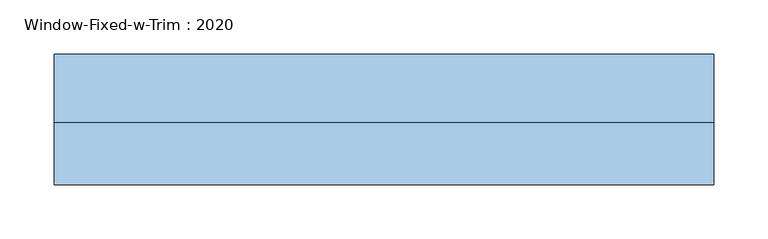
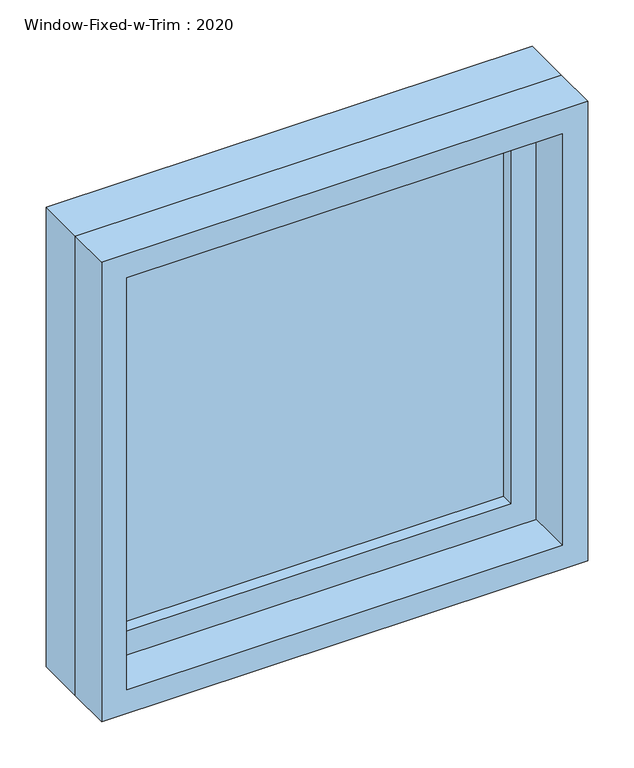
"""IFC4 building model written with IfcOpenShell, lengths in millimetres: window geometry, Window-Fixed-w-Trim : 2020."""

from ifc_helpers import new_model, si_unit, frame, origin, place, context, project, spatial, polyline, outline, extrude, source, transform, mapped, element, save


def window_fixed_w_trim_2020_b07e8416(model_context):
    return source(origin(), model_context, "Body", "SweptSolid", [
        extrude(outline(polyline([(203.2, 12.7), (-279.4, 12.7), (-279.4, 25.4), (203.2, 25.4), (203.2, 12.7)])), frame((0.0, 0.0, 977.9), z_axis=(0.0, 0.0, 1.0), x_axis=(1.0, 0.0, 0.0)), (0.0, 0.0, 1.0), 482.6),
        extrude(outline(polyline([(1504.95, -323.85), (933.45, -323.85), (933.45, 247.65), (1504.95, 247.65), (1504.95, -323.85)]), holes=[polyline([(1460.5, -279.4), (1460.5, 203.2), (977.9, 203.2), (977.9, -279.4), (1460.5, -279.4)])]), frame((0.0, -3.175, 0.0), z_axis=(0.0, 1.0, 0.0), x_axis=(0.0, 0.0, 1.0)), (0.0, 0.0, 1.0), 44.45),
        extrude(outline(polyline([(1524.0, -342.9), (914.4, -342.9), (914.4, 266.7), (1524.0, 266.7), (1524.0, -342.9)]), holes=[polyline([(1492.25, -311.15), (1492.25, 234.95), (946.15, 234.95), (946.15, -311.15), (1492.25, -311.15)])]), frame((0.0, -60.325, 0.0), z_axis=(0.0, 1.0, 0.0), x_axis=(0.0, 0.0, 1.0)), (0.0, 0.0, 1.0), 57.15),
        extrude(outline(polyline([(1524.0, 266.7), (1524.0, -342.9), (914.4, -342.9), (914.4, 266.7), (1524.0, 266.7)]), holes=[polyline([(1504.95, 247.65), (933.45, 247.65), (933.45, -323.85), (1504.95, -323.85), (1504.95, 247.65)])]), frame((0.0, -3.175, 0.0), z_axis=(0.0, 1.0, 0.0), x_axis=(0.0, 0.0, 1.0)), (0.0, 0.0, 1.0), 63.5),
    ])


if __name__ == "__main__":
    model = new_model("IFC4")
    model_context = context("Model", 3, world=origin())
    ifc_project = project(units=[si_unit("LENGTHUNIT", "METRE", prefix="MILLI")], contexts=[model_context])
    site = spatial("IfcSite", under=ifc_project)
    building = spatial("IfcBuilding", under=site)
    placement = place(None, origin())
    window_fixed_w_trim_2020_shape = window_fixed_w_trim_2020_b07e8416(model_context)
    element("IfcWindow", 1, ObjectType="Window-Fixed-w-Trim : 2020", at=placement, inside=building, context=model_context, shape_type="MappedRepresentation", body=[
        mapped(window_fixed_w_trim_2020_shape, transform((0.0, 0.0, 0.0), x_axis=(1.0, 0.0, 0.0), y_axis=(0.0, 1.0, 0.0), z_axis=(0.0, 0.0, 1.0))),
    ])
    save(model, "model.ifc")
